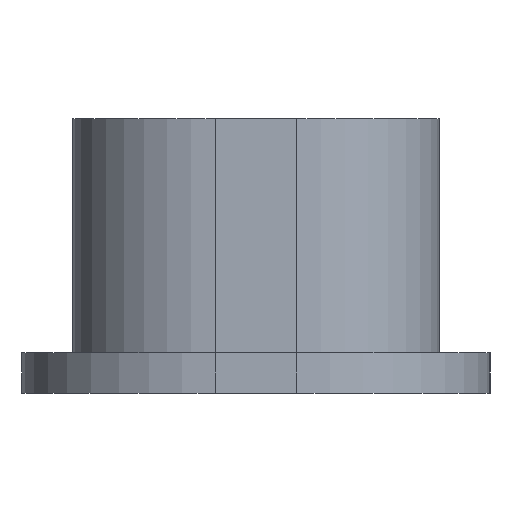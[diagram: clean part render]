
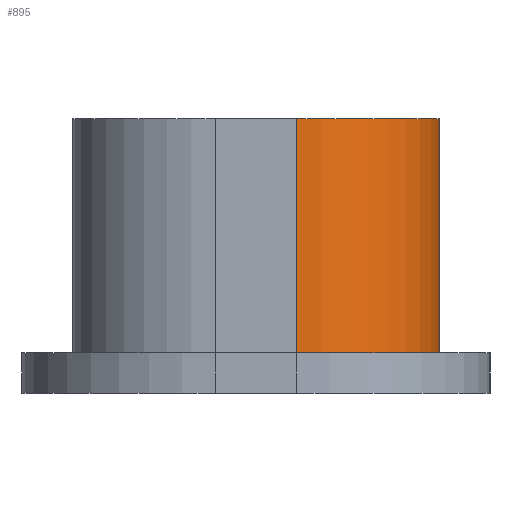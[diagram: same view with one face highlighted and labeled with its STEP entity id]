
A CAD part, left-side view. The second image highlights one B-rep face of the part: STEP entity #895.
In plain terms, the highlighted cylindrical face has radius 1.4 mm (diameter 2.8 mm), a partial arc.
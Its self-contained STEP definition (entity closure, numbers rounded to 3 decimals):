
#72 = PLANE('',#73);
#73 = AXIS2_PLACEMENT_3D('',#74,#75,#76);
#74 = CARTESIAN_POINT('',(15.25,37.,5.6));
#75 = DIRECTION('',(0.,0.,1.));
#76 = DIRECTION('',(1.,0.,-0.));
#553 = EDGE_CURVE('',#554,#556,#558,.T.);
#554 = VERTEX_POINT('',#555);
#555 = CARTESIAN_POINT('',(3.5,36.6,5.6));
#556 = VERTEX_POINT('',#557);
#557 = CARTESIAN_POINT('',(4.9,35.2,5.6));
#558 = SURFACE_CURVE('',#559,(#564,#571),.PCURVE_S1.);
#559 = CIRCLE('',#560,1.4);
#560 = AXIS2_PLACEMENT_3D('',#561,#562,#563);
#561 = CARTESIAN_POINT('',(4.9,36.6,5.6));
#562 = DIRECTION('',(0.,0.,1.));
#563 = DIRECTION('',(1.,0.,0.));
#564 = PCURVE('',#72,#565);
#565 = DEFINITIONAL_REPRESENTATION('',(#566),#570);
#566 = CIRCLE('',#567,1.4);
#567 = AXIS2_PLACEMENT_2D('',#568,#569);
#568 = CARTESIAN_POINT('',(-10.35,-0.4));
#569 = DIRECTION('',(1.,0.));
#570 = ( GEOMETRIC_REPRESENTATION_CONTEXT(2) 
PARAMETRIC_REPRESENTATION_CONTEXT() REPRESENTATION_CONTEXT('2D SPACE',''
  ) );
#571 = PCURVE('',#572,#577);
#572 = CYLINDRICAL_SURFACE('',#573,1.4);
#573 = AXIS2_PLACEMENT_3D('',#574,#575,#576);
#574 = CARTESIAN_POINT('',(4.9,36.6,5.6));
#575 = DIRECTION('',(-0.,-0.,-1.));
#576 = DIRECTION('',(1.,0.,0.));
#577 = DEFINITIONAL_REPRESENTATION('',(#578),#582);
#578 = LINE('',#579,#580);
#579 = CARTESIAN_POINT('',(-0.,0.));
#580 = VECTOR('',#581,1.);
#581 = DIRECTION('',(-1.,0.));
#582 = ( GEOMETRIC_REPRESENTATION_CONTEXT(2) 
PARAMETRIC_REPRESENTATION_CONTEXT() REPRESENTATION_CONTEXT('2D SPACE',''
  ) );
#600 = PLANE('',#601);
#601 = AXIS2_PLACEMENT_3D('',#602,#603,#604);
#602 = CARTESIAN_POINT('',(3.5,36.6,5.6));
#603 = DIRECTION('',(-1.,0.,0.));
#604 = DIRECTION('',(0.,1.,0.));
#769 = PLANE('',#770);
#770 = AXIS2_PLACEMENT_3D('',#771,#772,#773);
#771 = CARTESIAN_POINT('',(4.9,35.2,5.6));
#772 = DIRECTION('',(0.,1.,0.));
#773 = DIRECTION('',(1.,0.,0.));
#895 = ADVANCED_FACE('',(#896),#572,.T.);
#896 = FACE_BOUND('',#897,.F.);
#897 = EDGE_LOOP('',(#898,#921,#950,#971));
#898 = ORIENTED_EDGE('',*,*,#899,.T.);
#899 = EDGE_CURVE('',#554,#900,#902,.T.);
#900 = VERTEX_POINT('',#901);
#901 = CARTESIAN_POINT('',(3.5,36.6,7.9));
#902 = SURFACE_CURVE('',#903,(#907,#914),.PCURVE_S1.);
#903 = LINE('',#904,#905);
#904 = CARTESIAN_POINT('',(3.5,36.6,5.6));
#905 = VECTOR('',#906,1.);
#906 = DIRECTION('',(0.,0.,1.));
#907 = PCURVE('',#572,#908);
#908 = DEFINITIONAL_REPRESENTATION('',(#909),#913);
#909 = LINE('',#910,#911);
#910 = CARTESIAN_POINT('',(-3.142,0.));
#911 = VECTOR('',#912,1.);
#912 = DIRECTION('',(-0.,-1.));
#913 = ( GEOMETRIC_REPRESENTATION_CONTEXT(2) 
PARAMETRIC_REPRESENTATION_CONTEXT() REPRESENTATION_CONTEXT('2D SPACE',''
  ) );
#914 = PCURVE('',#600,#915);
#915 = DEFINITIONAL_REPRESENTATION('',(#916),#920);
#916 = LINE('',#917,#918);
#917 = CARTESIAN_POINT('',(0.,0.));
#918 = VECTOR('',#919,1.);
#919 = DIRECTION('',(0.,-1.));
#920 = ( GEOMETRIC_REPRESENTATION_CONTEXT(2) 
PARAMETRIC_REPRESENTATION_CONTEXT() REPRESENTATION_CONTEXT('2D SPACE',''
  ) );
#921 = ORIENTED_EDGE('',*,*,#922,.T.);
#922 = EDGE_CURVE('',#900,#923,#925,.T.);
#923 = VERTEX_POINT('',#924);
#924 = CARTESIAN_POINT('',(4.9,35.2,7.9));
#925 = SURFACE_CURVE('',#926,(#931,#938),.PCURVE_S1.);
#926 = CIRCLE('',#927,1.4);
#927 = AXIS2_PLACEMENT_3D('',#928,#929,#930);
#928 = CARTESIAN_POINT('',(4.9,36.6,7.9));
#929 = DIRECTION('',(0.,0.,1.));
#930 = DIRECTION('',(1.,0.,0.));
#931 = PCURVE('',#572,#932);
#932 = DEFINITIONAL_REPRESENTATION('',(#933),#937);
#933 = LINE('',#934,#935);
#934 = CARTESIAN_POINT('',(-0.,-2.3));
#935 = VECTOR('',#936,1.);
#936 = DIRECTION('',(-1.,0.));
#937 = ( GEOMETRIC_REPRESENTATION_CONTEXT(2) 
PARAMETRIC_REPRESENTATION_CONTEXT() REPRESENTATION_CONTEXT('2D SPACE',''
  ) );
#938 = PCURVE('',#939,#944);
#939 = PLANE('',#940);
#940 = AXIS2_PLACEMENT_3D('',#941,#942,#943);
#941 = CARTESIAN_POINT('',(15.25,37.,7.9));
#942 = DIRECTION('',(0.,0.,1.));
#943 = DIRECTION('',(1.,0.,0.));
#944 = DEFINITIONAL_REPRESENTATION('',(#945),#949);
#945 = CIRCLE('',#946,1.4);
#946 = AXIS2_PLACEMENT_2D('',#947,#948);
#947 = CARTESIAN_POINT('',(-10.35,-0.4));
#948 = DIRECTION('',(1.,0.));
#949 = ( GEOMETRIC_REPRESENTATION_CONTEXT(2) 
PARAMETRIC_REPRESENTATION_CONTEXT() REPRESENTATION_CONTEXT('2D SPACE',''
  ) );
#950 = ORIENTED_EDGE('',*,*,#951,.F.);
#951 = EDGE_CURVE('',#556,#923,#952,.T.);
#952 = SURFACE_CURVE('',#953,(#957,#964),.PCURVE_S1.);
#953 = LINE('',#954,#955);
#954 = CARTESIAN_POINT('',(4.9,35.2,5.6));
#955 = VECTOR('',#956,1.);
#956 = DIRECTION('',(0.,0.,1.));
#957 = PCURVE('',#572,#958);
#958 = DEFINITIONAL_REPRESENTATION('',(#959),#963);
#959 = LINE('',#960,#961);
#960 = CARTESIAN_POINT('',(-4.712,0.));
#961 = VECTOR('',#962,1.);
#962 = DIRECTION('',(-0.,-1.));
#963 = ( GEOMETRIC_REPRESENTATION_CONTEXT(2) 
PARAMETRIC_REPRESENTATION_CONTEXT() REPRESENTATION_CONTEXT('2D SPACE',''
  ) );
#964 = PCURVE('',#769,#965);
#965 = DEFINITIONAL_REPRESENTATION('',(#966),#970);
#966 = LINE('',#967,#968);
#967 = CARTESIAN_POINT('',(0.,0.));
#968 = VECTOR('',#969,1.);
#969 = DIRECTION('',(0.,-1.));
#970 = ( GEOMETRIC_REPRESENTATION_CONTEXT(2) 
PARAMETRIC_REPRESENTATION_CONTEXT() REPRESENTATION_CONTEXT('2D SPACE',''
  ) );
#971 = ORIENTED_EDGE('',*,*,#553,.F.);
